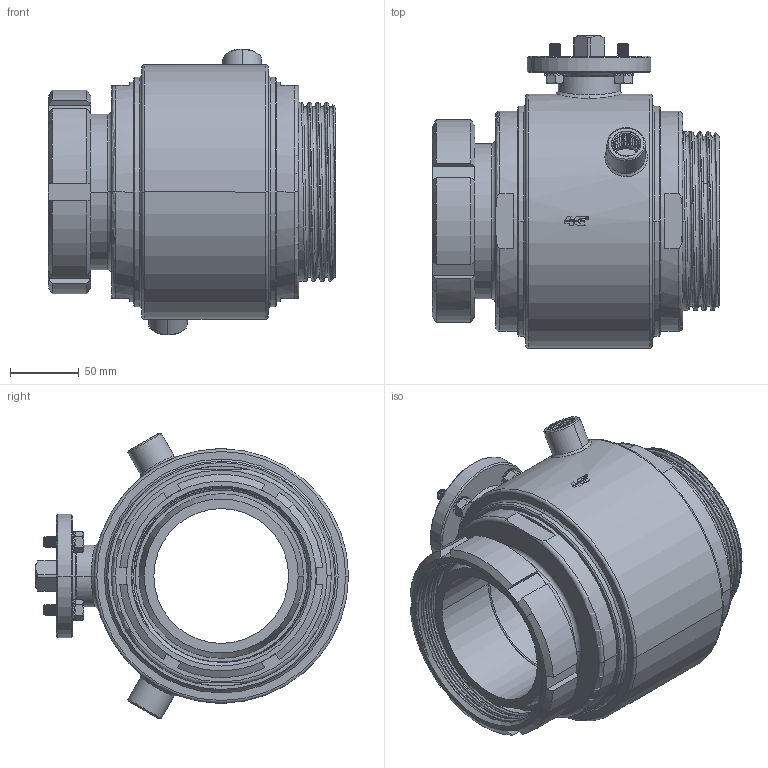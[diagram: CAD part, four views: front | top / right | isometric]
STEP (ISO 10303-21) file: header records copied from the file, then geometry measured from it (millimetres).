
FILE_DESCRIPTION((''),'2;1');
FILE_NAME('103026C65410_SW0001','2026-01-22T11:43:18',('tecnico2'),('CDM Tecnoconsulting'),'CREO PARAMETRIC BY PTC INC, 2024063','CREO PARAMETRIC BY PTC INC, 2024063','');
FILE_SCHEMA(('CONFIG_CONTROL_DESIGN'));
Products named in the file (1): 103026C65410_SW0001
Bounding box: 209 x 227.5 x 207.86 mm (x, y, z)
Volume: 2302427.3 mm3; surface area: 502818.8 mm2
Topology: 1 solids, 1 shells, 1674 faces, 4524 edges, 2933 vertices
Faces by surface type: plane 645, cylinder 478, cone 214, extrusion 166, bspline 129, torus 38, sphere 4
Entity records: 108411 total; most frequent: CARTESIAN_POINT 69430, ORIENTED_EDGE 9032, DIRECTION 6545, EDGE_CURVE 4516, VERTEX_POINT 2933, AXIS2_PLACEMENT_3D 2232, VECTOR 2081, LINE 1915
